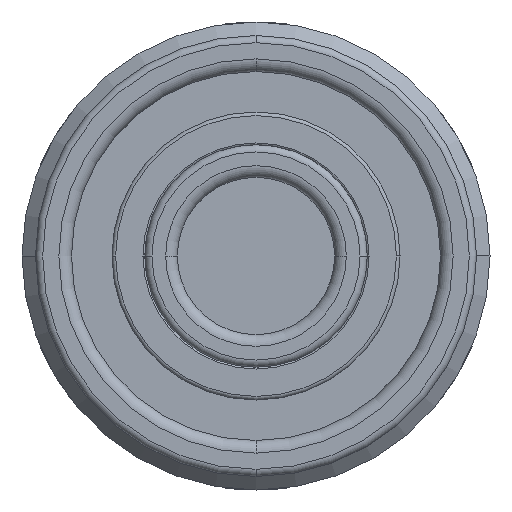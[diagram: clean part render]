
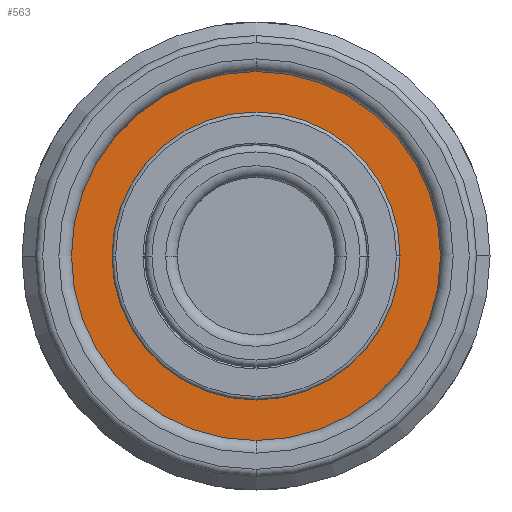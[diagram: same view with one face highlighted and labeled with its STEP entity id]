
A CAD part, front view. The second image highlights one B-rep face of the part: STEP entity #563.
In plain terms, the highlighted planar face has unit normal (0, -1, 0).
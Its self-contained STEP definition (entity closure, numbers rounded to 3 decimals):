
#168=PLANE('',#2405);
#206=FACE_BOUND('',#869,.T.);
#207=FACE_BOUND('',#870,.T.);
#563=ADVANCED_FACE('',(#206,#207),#168,.F.);
#869=EDGE_LOOP('',(#1349,#1350));
#870=EDGE_LOOP('',(#1351,#1352));
#1349=ORIENTED_EDGE('',*,*,#1909,.T.);
#1350=ORIENTED_EDGE('',*,*,#1880,.T.);
#1351=ORIENTED_EDGE('',*,*,#1890,.T.);
#1352=ORIENTED_EDGE('',*,*,#1908,.T.);
#1631=VERTEX_POINT('',#3881);
#1632=VERTEX_POINT('',#3882);
#1637=VERTEX_POINT('',#3899);
#1638=VERTEX_POINT('',#3901);
#1880=EDGE_CURVE('',#1631,#1632,#2092,.T.);
#1890=EDGE_CURVE('',#1638,#1637,#2099,.T.);
#1908=EDGE_CURVE('',#1637,#1638,#2114,.T.);
#1909=EDGE_CURVE('',#1632,#1631,#2115,.T.);
#2092=CIRCLE('',#2367,11.9);
#2099=CIRCLE('',#2377,8.);
#2114=CIRCLE('',#2402,8.);
#2115=CIRCLE('',#2404,11.9);
#2367=AXIS2_PLACEMENT_3D('',#3880,#2976,#2977);
#2377=AXIS2_PLACEMENT_3D('',#3900,#2999,#3000);
#2402=AXIS2_PLACEMENT_3D('',#3935,#3052,#3053);
#2404=AXIS2_PLACEMENT_3D('',#3937,#3056,#3057);
#2405=AXIS2_PLACEMENT_3D('',#3938,#3058,#3059);
#2976=DIRECTION('',(0.,-1.,0.));
#2977=DIRECTION('',(-1.,0.,0.));
#2999=DIRECTION('',(0.,1.,0.));
#3000=DIRECTION('',(-1.,0.,0.));
#3052=DIRECTION('',(0.,1.,0.));
#3053=DIRECTION('',(-1.,0.,0.));
#3056=DIRECTION('',(0.,-1.,0.));
#3057=DIRECTION('',(-1.,0.,0.));
#3058=DIRECTION('',(0.,1.,0.));
#3059=DIRECTION('',(1.,0.,0.));
#3880=CARTESIAN_POINT('',(0.,19.9,0.));
#3881=CARTESIAN_POINT('',(11.9,19.9,0.));
#3882=CARTESIAN_POINT('',(-11.9,19.9,0.));
#3899=CARTESIAN_POINT('',(8.,19.9,0.));
#3900=CARTESIAN_POINT('',(0.,19.9,0.));
#3901=CARTESIAN_POINT('',(-8.,19.9,0.));
#3935=CARTESIAN_POINT('',(0.,19.9,0.));
#3937=CARTESIAN_POINT('',(0.,19.9,0.));
#3938=CARTESIAN_POINT('',(8.,19.9,0.));
